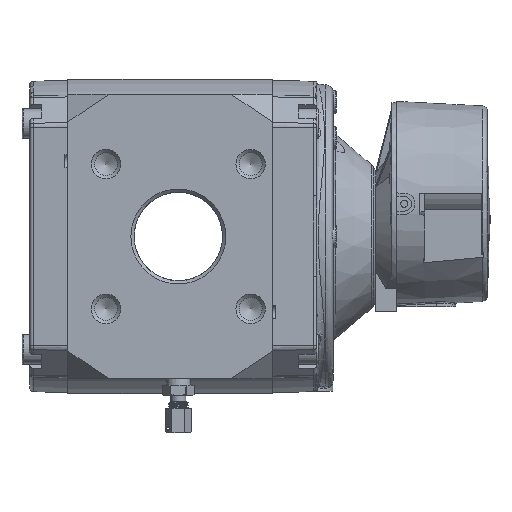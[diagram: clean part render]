
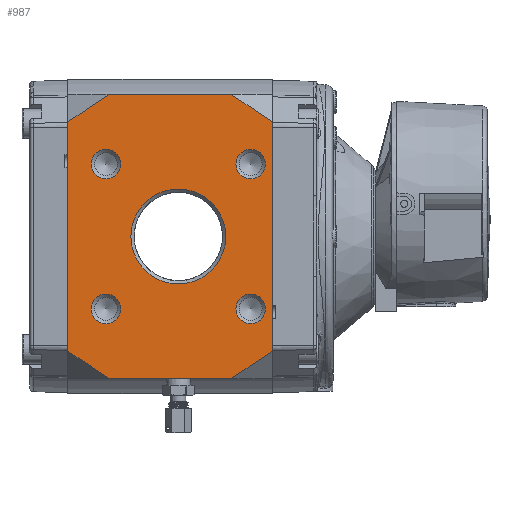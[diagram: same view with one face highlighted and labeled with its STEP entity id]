
A CAD part, left-side view. The second image highlights one B-rep face of the part: STEP entity #987.
In plain terms, the highlighted planar face has unit normal (-1, 0, 0).
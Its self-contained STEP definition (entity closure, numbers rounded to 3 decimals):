
#987=ADVANCED_FACE('',(#14225,#14227,#14229,#14231,#14233,#14235),#14237,.T.);
#14225=FACE_BOUND('',#14226,.T.);
#14226=EDGE_LOOP('',(#36181,#36182,#36183,#36184,#36185,#36186,#36187,#36188));
#14227=FACE_BOUND('',#14228,.T.);
#14228=EDGE_LOOP('',(#36189));
#14229=FACE_BOUND('',#14230,.T.);
#14230=EDGE_LOOP('',(#36190));
#14231=FACE_BOUND('',#14232,.T.);
#14232=EDGE_LOOP('',(#36191));
#14233=FACE_BOUND('',#14234,.T.);
#14234=EDGE_LOOP('',(#36192));
#14235=FACE_BOUND('',#14236,.T.);
#14236=EDGE_LOOP('',(#36193));
#14237=PLANE('',#14238);
#14238=AXIS2_PLACEMENT_3D('',#14239,#14240,#14241);
#14239=CARTESIAN_POINT('',(-85.5,0.,-87.));
#14240=DIRECTION('',(-1.,0.,0.));
#14241=DIRECTION('',(0.,0.,1.));
#36181=ORIENTED_EDGE('',*,*,#43068,.T.);
#36182=ORIENTED_EDGE('',*,*,#42759,.F.);
#36183=ORIENTED_EDGE('',*,*,#43055,.T.);
#36184=ORIENTED_EDGE('',*,*,#43069,.F.);
#36185=ORIENTED_EDGE('',*,*,#43070,.T.);
#36186=ORIENTED_EDGE('',*,*,#43071,.T.);
#36187=ORIENTED_EDGE('',*,*,#43072,.T.);
#36188=ORIENTED_EDGE('',*,*,#43073,.T.);
#36189=ORIENTED_EDGE('',*,*,#43074,.T.);
#36190=ORIENTED_EDGE('',*,*,#43075,.T.);
#36191=ORIENTED_EDGE('',*,*,#43076,.T.);
#36192=ORIENTED_EDGE('',*,*,#43077,.T.);
#36193=ORIENTED_EDGE('',*,*,#43078,.T.);
#42759=EDGE_CURVE('',#46351,#46353,#46354,.T.);
#43055=EDGE_CURVE('',#46351,#46866,#46867,.T.);
#43068=EDGE_CURVE('',#46891,#46353,#46892,.T.);
#43069=EDGE_CURVE('',#46893,#46866,#46894,.T.);
#43070=EDGE_CURVE('',#46893,#46895,#46896,.T.);
#43071=EDGE_CURVE('',#46895,#46897,#46898,.T.);
#43072=EDGE_CURVE('',#46897,#46899,#46900,.T.);
#43073=EDGE_CURVE('',#46899,#46891,#46901,.T.);
#43074=EDGE_CURVE('',#46902,#46902,#46903,.T.);
#43075=EDGE_CURVE('',#46904,#46904,#46905,.T.);
#43076=EDGE_CURVE('',#46906,#46906,#46907,.T.);
#43077=EDGE_CURVE('',#46908,#46908,#46909,.T.);
#43078=EDGE_CURVE('',#46910,#46910,#46911,.T.);
#46351=VERTEX_POINT('',#52517);
#46353=VERTEX_POINT('',#52521);
#46354=LINE('',#52522,#52523);
#46866=VERTEX_POINT('',#54449);
#46867=LINE('',#54450,#54451);
#46891=VERTEX_POINT('',#54511);
#46892=LINE('',#54512,#54513);
#46893=VERTEX_POINT('',#54515);
#46894=LINE('',#54516,#54517);
#46895=VERTEX_POINT('',#54519);
#46896=LINE('',#54520,#54521);
#46897=VERTEX_POINT('',#54523);
#46898=LINE('',#54524,#54525);
#46899=VERTEX_POINT('',#54527);
#46900=LINE('',#54528,#54529);
#46901=LINE('',#54531,#54532);
#46902=VERTEX_POINT('',#54534);
#46903=CIRCLE('',#54535,29.);
#46904=VERTEX_POINT('',#54539);
#46905=CIRCLE('',#54540,9.);
#46906=VERTEX_POINT('',#54544);
#46907=CIRCLE('',#54545,9.);
#46908=VERTEX_POINT('',#54549);
#46909=CIRCLE('',#54550,9.);
#46910=VERTEX_POINT('',#54554);
#46911=CIRCLE('',#54555,9.);
#52517=CARTESIAN_POINT('',(-85.5,125.,-70.));
#52521=CARTESIAN_POINT('',(-85.5,125.,70.));
#52522=CARTESIAN_POINT('',(-85.5,125.,-70.));
#52523=VECTOR('',#52524,1.);
#52524=DIRECTION('',(0.,0.,1.));
#54449=CARTESIAN_POINT('',(-85.5,99.512,-87.));
#54450=CARTESIAN_POINT('',(-85.5,125.,-70.));
#54451=VECTOR('',#54452,1.);
#54452=DIRECTION('',(0.,-0.832,-0.555));
#54511=CARTESIAN_POINT('',(-85.5,99.512,87.));
#54512=CARTESIAN_POINT('',(-85.5,99.512,87.));
#54513=VECTOR('',#54514,1.);
#54514=DIRECTION('',(0.,0.832,-0.555));
#54515=CARTESIAN_POINT('',(-85.5,25.488,-87.));
#54516=CARTESIAN_POINT('',(-85.5,25.488,-87.));
#54517=VECTOR('',#54518,1.);
#54518=DIRECTION('',(0.,1.,0.));
#54519=CARTESIAN_POINT('',(-85.5,0.,-70.));
#54520=CARTESIAN_POINT('',(-85.5,25.488,-87.));
#54521=VECTOR('',#54522,1.);
#54522=DIRECTION('',(0.,-0.832,0.555));
#54523=CARTESIAN_POINT('',(-85.5,0.,70.));
#54524=CARTESIAN_POINT('',(-85.5,0.,-70.));
#54525=VECTOR('',#54526,1.);
#54526=DIRECTION('',(0.,0.,1.));
#54527=CARTESIAN_POINT('',(-85.5,25.488,87.));
#54528=CARTESIAN_POINT('',(-85.5,0.,70.));
#54529=VECTOR('',#54530,1.);
#54530=DIRECTION('',(0.,0.832,0.555));
#54531=CARTESIAN_POINT('',(-85.5,25.488,87.));
#54532=VECTOR('',#54533,1.);
#54533=DIRECTION('',(0.,1.,0.));
#54534=CARTESIAN_POINT('',(-85.5,57.5,29.));
#54535=AXIS2_PLACEMENT_3D('',#54536,#54537,#54538);
#54536=CARTESIAN_POINT('',(-85.5,57.5,0.));
#54537=DIRECTION('',(1.,0.,0.));
#54538=DIRECTION('',(0.,0.,1.));
#54539=CARTESIAN_POINT('',(-85.5,101.7,53.2));
#54540=AXIS2_PLACEMENT_3D('',#54541,#54542,#54543);
#54541=CARTESIAN_POINT('',(-85.5,101.7,44.2));
#54542=DIRECTION('',(1.,0.,0.));
#54543=DIRECTION('',(0.,0.,1.));
#54544=CARTESIAN_POINT('',(-85.5,13.3,-53.2));
#54545=AXIS2_PLACEMENT_3D('',#54546,#54547,#54548);
#54546=CARTESIAN_POINT('',(-85.5,13.3,-44.2));
#54547=DIRECTION('',(1.,0.,0.));
#54548=DIRECTION('',(0.,0.,-1.));
#54549=CARTESIAN_POINT('',(-85.5,110.7,-44.2));
#54550=AXIS2_PLACEMENT_3D('',#54551,#54552,#54553);
#54551=CARTESIAN_POINT('',(-85.5,101.7,-44.2));
#54552=DIRECTION('',(1.,0.,0.));
#54553=DIRECTION('',(0.,1.,0.));
#54554=CARTESIAN_POINT('',(-85.5,4.3,44.2));
#54555=AXIS2_PLACEMENT_3D('',#54556,#54557,#54558);
#54556=CARTESIAN_POINT('',(-85.5,13.3,44.2));
#54557=DIRECTION('',(1.,0.,0.));
#54558=DIRECTION('',(0.,-1.,0.));
